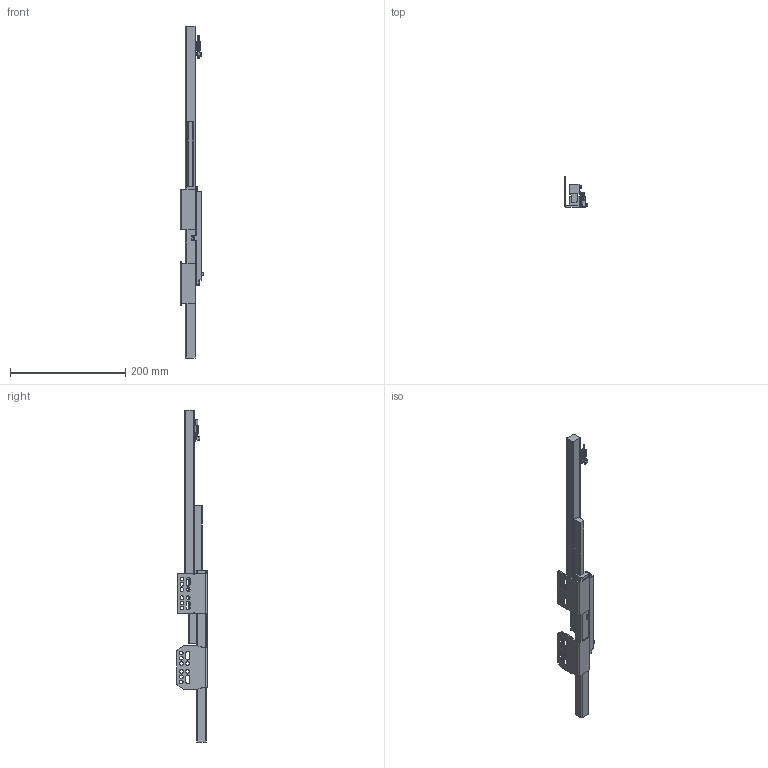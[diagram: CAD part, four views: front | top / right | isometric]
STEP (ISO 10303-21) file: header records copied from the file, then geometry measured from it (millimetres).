
FILE_DESCRIPTION (( 'STEP AP203' ), '1' );
FILE_NAME ('HB013504GX-L(打开).STEP', '2025-05-13T07:18:24', ( '微软用户' ), ( '微软中国' ), 'SwSTEP 2.0', 'SolidWorks 2021', '' );
FILE_SCHEMA (( 'CONFIG_CONTROL_DESIGN' ));
Products named in the file (1): HB013504GX-L(湖羲)
Bounding box: 40.83 x 53 x 575 mm (x, y, z)
Volume: 248109.2 mm3; surface area: 73930.3 mm2
Topology: 3 solids, 30 shells, 1464 faces, 3864 edges, 2443 vertices
Faces by surface type: plane 497, cylinder 489, bspline 268, torus 158, cone 44, sphere 8
Entity records: 82703 total; most frequent: CARTESIAN_POINT 48532, ORIENTED_EDGE 7664, DIRECTION 6447, EDGE_CURVE 3832, VERTEX_POINT 2443, AXIS2_PLACEMENT_3D 2324, LINE 1799, VECTOR 1799
